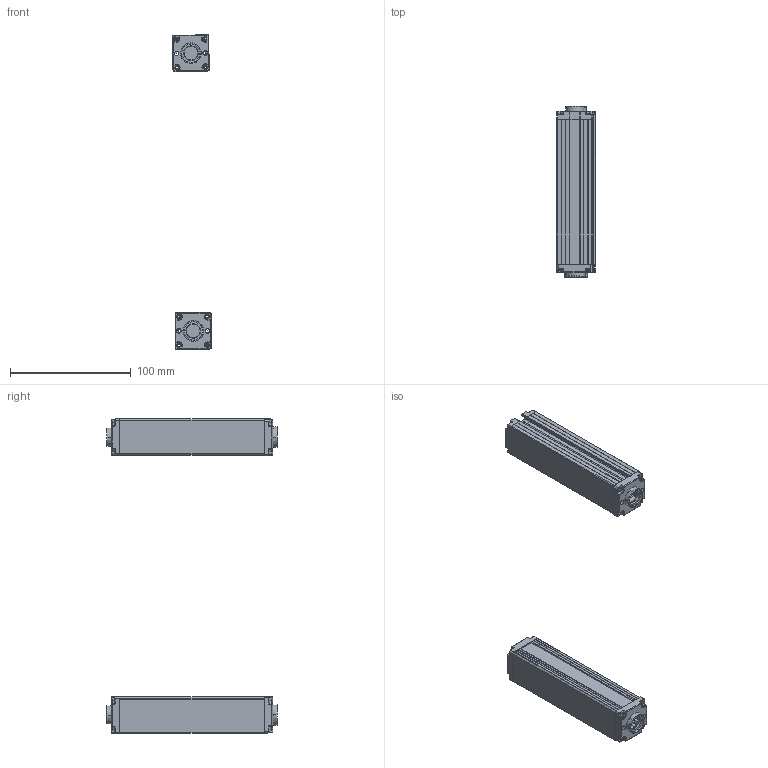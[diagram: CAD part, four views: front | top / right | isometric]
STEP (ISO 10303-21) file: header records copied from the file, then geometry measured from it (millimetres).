
FILE_DESCRIPTION (( 'STEP AP203' ), '1' );
FILE_NAME ('ZDA1010-100.STEP', '2022-08-30T03:30:41', ( 'Windows 蚚誧' ), ( 'Organization' ), 'SwSTEP 2.0', 'SolidWorks 2020', '' );
FILE_SCHEMA (( 'CONFIG_CONTROL_DESIGN' ));
Length unit declared in the file: millimetre
Products named in the file (5): 錨璃1; 錨璃10; 錨璃8; ZDA1010-100; 錨璃8 - 萵掛 (2)
Assembly tree (8 placements, depth 2):
  ZDA1010-100
    錨璃1  x2
    錨璃8  x2
    錨璃8 - 萵掛 (2)  x2
    錨璃10  x2
Bounding box: 32.36 x 141.4 x 260.35 mm (x, y, z)
Volume: 86567 mm3; surface area: 94626.4 mm2
Topology: 8 solids, 8 shells, 1032 faces, 2690 edges, 1668 vertices
Faces by surface type: plane 464, cylinder 310, cone 120, bspline 58, torus 48, sphere 32
Entity records: 17901 total; most frequent: CARTESIAN_POINT 4731, ORIENTED_EDGE 2666, DIRECTION 2616, EDGE_CURVE 1333, AXIS2_PLACEMENT_3D 894, VERTEX_POINT 834, LINE 828, VECTOR 828
